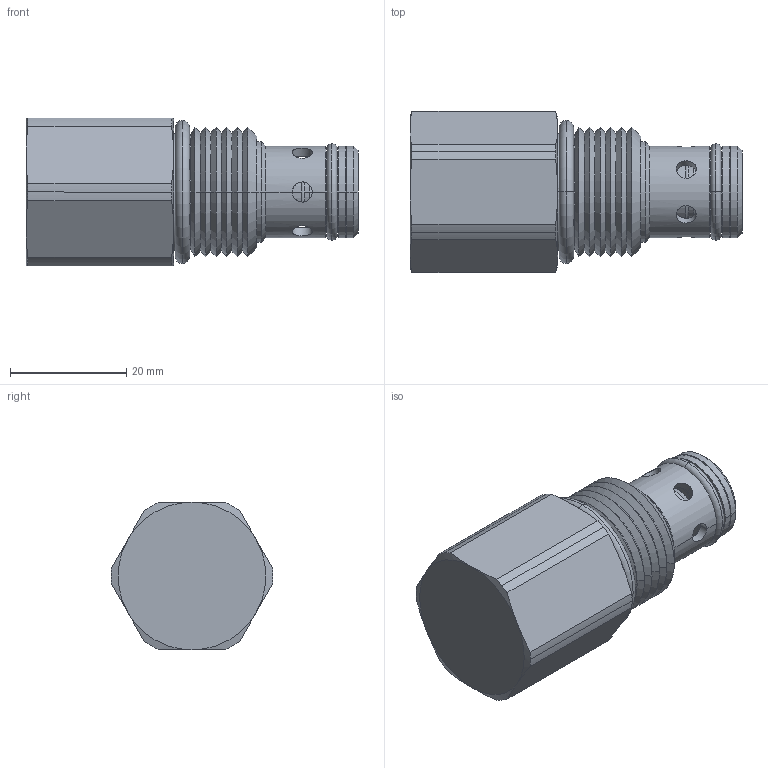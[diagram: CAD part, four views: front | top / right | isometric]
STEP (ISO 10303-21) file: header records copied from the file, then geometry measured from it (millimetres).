
FILE_DESCRIPTION((''),'2;1');
FILE_NAME('U:\Solid model CD\Solid model full\Mechanical\STEP\DECVT00-3D Full.stp','2008-07-28T16:01:53',('Dan'),(''),'Autodesk Inventor 9','Autodesk Inventor 9','');
FILE_SCHEMA(('AUTOMOTIVE_DESIGN { 1 0 10303 214 1 1 1 1 }'));
Length unit declared in the file: inch
Products named in the file (5): DECVT00-3D Full; DECVT00-3D Full1; DECVT00-3D Full2; DECVT00-3D Full3; DECVT00-3D Full4
Assembly tree (4 placements, depth 2):
  DECVT00-3D Full
    DECVT00-3D Full1
    DECVT00-3D Full2
    DECVT00-3D Full3
    DECVT00-3D Full4
Bounding box: 57.05 x 27.76 x 25.4 mm (x, y, z)
Volume: 21988.3 mm3; surface area: 7124.9 mm2
Topology: 4 solids, 4 shells, 134 faces, 329 edges, 201 vertices
Faces by surface type: cylinder 50, cone 44, plane 20, torus 12, bspline 8
Entity records: 4798 total; most frequent: CARTESIAN_POINT 1493, DIRECTION 716, ORIENTED_EDGE 658, EDGE_CURVE 329, AXIS2_PLACEMENT_3D 312, VERTEX_POINT 201, CIRCLE 177, EDGE_LOOP 154
